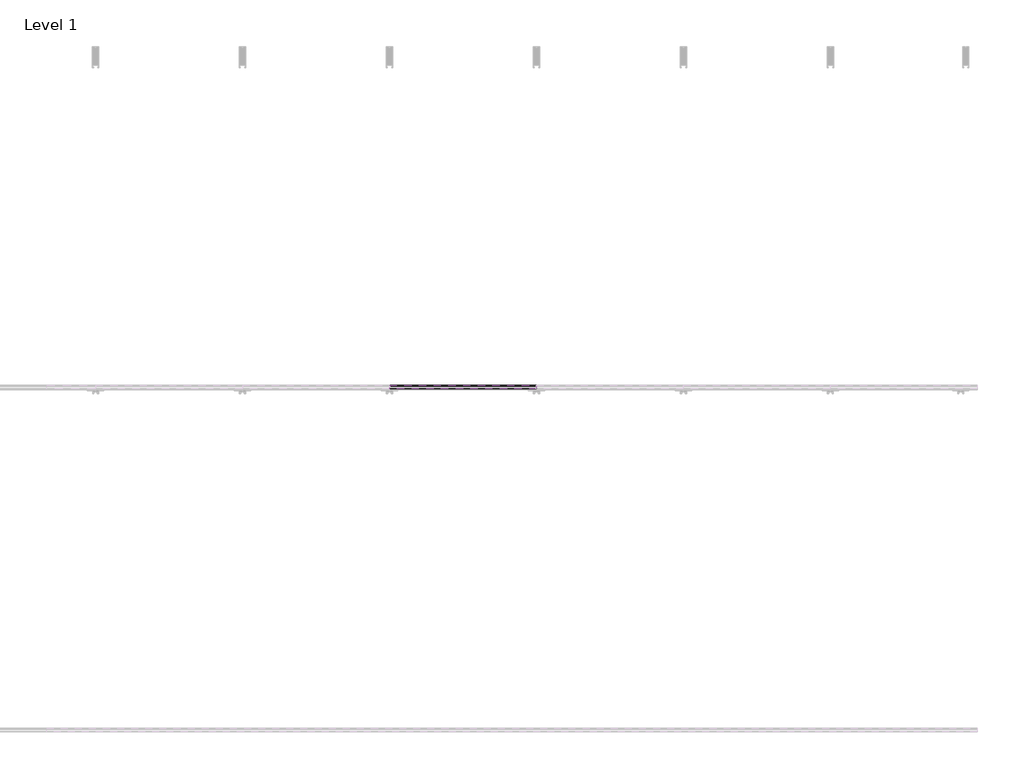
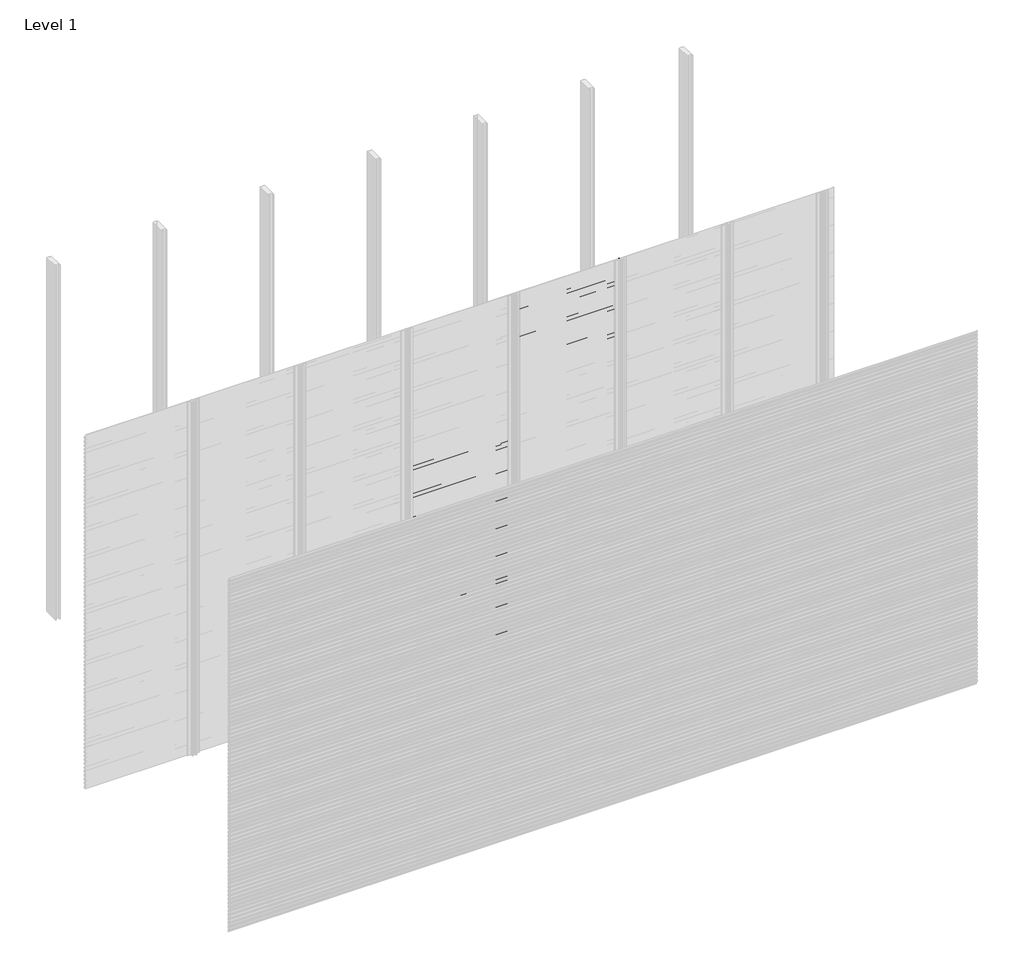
# One storey, part 9 of 96: 77 proxies.
"""IFC4 building model written with IfcOpenShell, lengths in millimetres."""

from ifc_helpers import new_model, si_unit, frame, origin, place, context, project, spatial, polyline, outline, extrude, element, save

model = new_model("IFC4")

# Units and contexts
model_context = context("Model", 3, world=origin())
ifc_project = project(units=[si_unit("LENGTHUNIT", "METRE", prefix="MILLI")], contexts=[model_context])

# Site, building, storey
site = spatial("IfcSite", under=ifc_project)
building = spatial("IfcBuilding", under=site)
storey = spatial("IfcBuildingStorey", under=building, Name="Level 1", Elevation=0.0)

# Proxies
placement = place(None, origin())
element("IfcBuildingElementProxy", 1, Name="Wall Sweeps", at=placement, inside=storey, context=model_context, shape_type="SweptSolid", body=[
    extrude(outline(polyline([(-53977.6, 1806.2655033), (-53977.6, 1791.9779188), (-53982.4114965, 1789.2), (-53982.4114965, 1790.4701706), (-53978.85, 1792.5264016), (-53978.85, 1805.5437382), (-53998.0, 1816.6000799), (-53998.0, 1831.5), (-53996.75, 1831.5), (-53996.75, 1817.3217609), (-53977.6, 1806.2655033)])), frame((2571.4285714, 0.0, 0.0), z_axis=(1.0, 0.0, 0.0), x_axis=(0.0, 1.0, 0.0)), (0.0, 0.0, 1.0), 857.1428571),
])
element("IfcBuildingElementProxy", 2, Name="Wall Sweeps", at=placement, inside=storey, context=model_context, shape_type="SweptSolid", body=[
    extrude(outline(polyline([(-53977.6, 1772.9655033), (-53977.6, 1758.6779188), (-53982.4114965, 1755.9), (-53982.4114965, 1757.1701706), (-53978.85, 1759.2264016), (-53978.85, 1772.2437382), (-53998.0, 1783.3000799), (-53998.0, 1798.2), (-53996.75, 1798.2), (-53996.75, 1784.0217609), (-53977.6, 1772.9655033)])), frame((2571.4285714, 0.0, 0.0), z_axis=(1.0, 0.0, 0.0), x_axis=(0.0, 1.0, 0.0)), (0.0, 0.0, 1.0), 857.1428571),
])
element("IfcBuildingElementProxy", 3, Name="Wall Sweeps", at=placement, inside=storey, context=model_context, shape_type="SweptSolid", body=[
    extrude(outline(polyline([(-53977.6, 1739.6655033), (-53977.6, 1725.3779188), (-53982.4114965, 1722.6), (-53982.4114965, 1723.8701706), (-53978.85, 1725.9264016), (-53978.85, 1738.9437382), (-53998.0, 1750.0000799), (-53998.0, 1764.9), (-53996.75, 1764.9), (-53996.75, 1750.7217609), (-53977.6, 1739.6655033)])), frame((2571.4285714, 0.0, 0.0), z_axis=(1.0, 0.0, 0.0), x_axis=(0.0, 1.0, 0.0)), (0.0, 0.0, 1.0), 857.1428571),
])
element("IfcBuildingElementProxy", 4, Name="Wall Sweeps", at=placement, inside=storey, context=model_context, shape_type="SweptSolid", body=[
    extrude(outline(polyline([(-53977.6, 1706.3655033), (-53977.6, 1692.0779188), (-53982.4114965, 1689.3), (-53982.4114965, 1690.5701706), (-53978.85, 1692.6264016), (-53978.85, 1705.6437382), (-53998.0, 1716.7000799), (-53998.0, 1731.6), (-53996.75, 1731.6), (-53996.75, 1717.4217609), (-53977.6, 1706.3655033)])), frame((2571.4285714, 0.0, 0.0), z_axis=(1.0, 0.0, 0.0), x_axis=(0.0, 1.0, 0.0)), (0.0, 0.0, 1.0), 857.1428571),
])
element("IfcBuildingElementProxy", 5, Name="Wall Sweeps", at=placement, inside=storey, context=model_context, shape_type="SweptSolid", body=[
    extrude(outline(polyline([(-53977.6, 1673.0655033), (-53977.6, 1658.7779188), (-53982.4114965, 1656.0), (-53982.4114965, 1657.2701706), (-53978.85, 1659.3264016), (-53978.85, 1672.3437382), (-53998.0, 1683.4000799), (-53998.0, 1698.3), (-53996.75, 1698.3), (-53996.75, 1684.1217609), (-53977.6, 1673.0655033)])), frame((2571.4285714, 0.0, 0.0), z_axis=(1.0, 0.0, 0.0), x_axis=(0.0, 1.0, 0.0)), (0.0, 0.0, 1.0), 857.1428571),
])
element("IfcBuildingElementProxy", 6, Name="Wall Sweeps", at=placement, inside=storey, context=model_context, shape_type="SweptSolid", body=[
    extrude(outline(polyline([(-53977.6, 1639.7655033), (-53977.6, 1625.4779188), (-53982.4114965, 1622.7), (-53982.4114965, 1623.9701706), (-53978.85, 1626.0264016), (-53978.85, 1639.0437382), (-53998.0, 1650.1000799), (-53998.0, 1665.0), (-53996.75, 1665.0), (-53996.75, 1650.8217609), (-53977.6, 1639.7655033)])), frame((2571.4285714, 0.0, 0.0), z_axis=(1.0, 0.0, 0.0), x_axis=(0.0, 1.0, 0.0)), (0.0, 0.0, 1.0), 857.1428571),
])
element("IfcBuildingElementProxy", 7, Name="Wall Sweeps", at=placement, inside=storey, context=model_context, shape_type="SweptSolid", body=[
    extrude(outline(polyline([(-53977.6, 1606.4655033), (-53977.6, 1592.1779188), (-53982.4114965, 1589.4), (-53982.4114965, 1590.6701706), (-53978.85, 1592.7264016), (-53978.85, 1605.7437382), (-53998.0, 1616.8000799), (-53998.0, 1631.7), (-53996.75, 1631.7), (-53996.75, 1617.5217609), (-53977.6, 1606.4655033)])), frame((2571.4285714, 0.0, 0.0), z_axis=(1.0, 0.0, 0.0), x_axis=(0.0, 1.0, 0.0)), (0.0, 0.0, 1.0), 857.1428571),
])
element("IfcBuildingElementProxy", 8, Name="Wall Sweeps", at=placement, inside=storey, context=model_context, shape_type="SweptSolid", body=[
    extrude(outline(polyline([(-53977.6, 1573.1655033), (-53977.6, 1558.8779188), (-53982.4114965, 1556.1), (-53982.4114965, 1557.3701706), (-53978.85, 1559.4264016), (-53978.85, 1572.4437382), (-53998.0, 1583.5000799), (-53998.0, 1598.4), (-53996.75, 1598.4), (-53996.75, 1584.2217609), (-53977.6, 1573.1655033)])), frame((2571.4285714, 0.0, 0.0), z_axis=(1.0, 0.0, 0.0), x_axis=(0.0, 1.0, 0.0)), (0.0, 0.0, 1.0), 857.1428571),
])
element("IfcBuildingElementProxy", 9, Name="Wall Sweeps", at=placement, inside=storey, context=model_context, shape_type="SweptSolid", body=[
    extrude(outline(polyline([(-53977.6, 1539.8655033), (-53977.6, 1525.5779188), (-53982.4114965, 1522.8), (-53982.4114965, 1524.0701706), (-53978.85, 1526.1264016), (-53978.85, 1539.1437382), (-53998.0, 1550.2000799), (-53998.0, 1565.1), (-53996.75, 1565.1), (-53996.75, 1550.9217609), (-53977.6, 1539.8655033)])), frame((2571.4285714, 0.0, 0.0), z_axis=(1.0, 0.0, 0.0), x_axis=(0.0, 1.0, 0.0)), (0.0, 0.0, 1.0), 857.1428571),
])
element("IfcBuildingElementProxy", 10, Name="Wall Sweeps", at=placement, inside=storey, context=model_context, shape_type="SweptSolid", body=[
    extrude(outline(polyline([(-53977.6, 1506.5655033), (-53977.6, 1492.2779188), (-53982.4114965, 1489.5), (-53982.4114965, 1490.7701706), (-53978.85, 1492.8264016), (-53978.85, 1505.8437382), (-53998.0, 1516.9000799), (-53998.0, 1531.8), (-53996.75, 1531.8), (-53996.75, 1517.6217609), (-53977.6, 1506.5655033)])), frame((2571.4285714, 0.0, 0.0), z_axis=(1.0, 0.0, 0.0), x_axis=(0.0, 1.0, 0.0)), (0.0, 0.0, 1.0), 857.1428571),
])
element("IfcBuildingElementProxy", 11, Name="Wall Sweeps", at=placement, inside=storey, context=model_context, shape_type="SweptSolid", body=[
    extrude(outline(polyline([(-53977.6, 1473.2655033), (-53977.6, 1458.9779188), (-53982.4114965, 1456.2), (-53982.4114965, 1457.4701706), (-53978.85, 1459.5264016), (-53978.85, 1472.5437382), (-53998.0, 1483.6000799), (-53998.0, 1498.5), (-53996.75, 1498.5), (-53996.75, 1484.3217609), (-53977.6, 1473.2655033)])), frame((2571.4285714, 0.0, 0.0), z_axis=(1.0, 0.0, 0.0), x_axis=(0.0, 1.0, 0.0)), (0.0, 0.0, 1.0), 857.1428571),
])
element("IfcBuildingElementProxy", 12, Name="Wall Sweeps", at=placement, inside=storey, context=model_context, shape_type="SweptSolid", body=[
    extrude(outline(polyline([(-53977.6, 1439.9655033), (-53977.6, 1425.6779188), (-53982.4114965, 1422.9), (-53982.4114965, 1424.1701706), (-53978.85, 1426.2264016), (-53978.85, 1439.2437382), (-53998.0, 1450.3000799), (-53998.0, 1465.2), (-53996.75, 1465.2), (-53996.75, 1451.0217609), (-53977.6, 1439.9655033)])), frame((2571.4285714, 0.0, 0.0), z_axis=(1.0, 0.0, 0.0), x_axis=(0.0, 1.0, 0.0)), (0.0, 0.0, 1.0), 857.1428571),
])
element("IfcBuildingElementProxy", 13, Name="Wall Sweeps", at=placement, inside=storey, context=model_context, shape_type="SweptSolid", body=[
    extrude(outline(polyline([(-53977.6, 1406.6655033), (-53977.6, 1392.3779188), (-53982.4114965, 1389.6), (-53982.4114965, 1390.8701706), (-53978.85, 1392.9264016), (-53978.85, 1405.9437382), (-53998.0, 1417.0000799), (-53998.0, 1431.9), (-53996.75, 1431.9), (-53996.75, 1417.7217609), (-53977.6, 1406.6655033)])), frame((2571.4285714, 0.0, 0.0), z_axis=(1.0, 0.0, 0.0), x_axis=(0.0, 1.0, 0.0)), (0.0, 0.0, 1.0), 857.1428571),
])
element("IfcBuildingElementProxy", 14, Name="Wall Sweeps", at=placement, inside=storey, context=model_context, shape_type="SweptSolid", body=[
    extrude(outline(polyline([(-53977.6, 1373.3655033), (-53977.6, 1359.0779188), (-53982.4114965, 1356.3), (-53982.4114965, 1357.5701706), (-53978.85, 1359.6264016), (-53978.85, 1372.6437382), (-53998.0, 1383.7000799), (-53998.0, 1398.6), (-53996.75, 1398.6), (-53996.75, 1384.4217609), (-53977.6, 1373.3655033)])), frame((2571.4285714, 0.0, 0.0), z_axis=(1.0, 0.0, 0.0), x_axis=(0.0, 1.0, 0.0)), (0.0, 0.0, 1.0), 857.1428571),
])
element("IfcBuildingElementProxy", 15, Name="Wall Sweeps", at=placement, inside=storey, context=model_context, shape_type="SweptSolid", body=[
    extrude(outline(polyline([(-53977.6, 1340.0655033), (-53977.6, 1325.7779188), (-53982.4114965, 1323.0), (-53982.4114965, 1324.2701706), (-53978.85, 1326.3264016), (-53978.85, 1339.3437382), (-53998.0, 1350.4000799), (-53998.0, 1365.3), (-53996.75, 1365.3), (-53996.75, 1351.1217609), (-53977.6, 1340.0655033)])), frame((2571.4285714, 0.0, 0.0), z_axis=(1.0, 0.0, 0.0), x_axis=(0.0, 1.0, 0.0)), (0.0, 0.0, 1.0), 857.1428571),
])
element("IfcBuildingElementProxy", 16, Name="Wall Sweeps", at=placement, inside=storey, context=model_context, shape_type="SweptSolid", body=[
    extrude(outline(polyline([(-53977.6, 1306.7655033), (-53977.6, 1292.4779188), (-53982.4114965, 1289.7), (-53982.4114965, 1290.9701706), (-53978.85, 1293.0264016), (-53978.85, 1306.0437382), (-53998.0, 1317.1000799), (-53998.0, 1332.0), (-53996.75, 1332.0), (-53996.75, 1317.8217609), (-53977.6, 1306.7655033)])), frame((2571.4285714, 0.0, 0.0), z_axis=(1.0, 0.0, 0.0), x_axis=(0.0, 1.0, 0.0)), (0.0, 0.0, 1.0), 857.1428571),
])
element("IfcBuildingElementProxy", 17, Name="Wall Sweeps", at=placement, inside=storey, context=model_context, shape_type="SweptSolid", body=[
    extrude(outline(polyline([(-53977.6, 1273.4655033), (-53977.6, 1259.1779188), (-53982.4114965, 1256.4), (-53982.4114965, 1257.6701706), (-53978.85, 1259.7264016), (-53978.85, 1272.7437382), (-53998.0, 1283.8000799), (-53998.0, 1298.7), (-53996.75, 1298.7), (-53996.75, 1284.5217609), (-53977.6, 1273.4655033)])), frame((2571.4285714, 0.0, 0.0), z_axis=(1.0, 0.0, 0.0), x_axis=(0.0, 1.0, 0.0)), (0.0, 0.0, 1.0), 857.1428571),
])
element("IfcBuildingElementProxy", 18, Name="Wall Sweeps", at=placement, inside=storey, context=model_context, shape_type="SweptSolid", body=[
    extrude(outline(polyline([(-53977.6, 1240.1655033), (-53977.6, 1225.8779188), (-53982.4114965, 1223.1), (-53982.4114965, 1224.3701706), (-53978.85, 1226.4264016), (-53978.85, 1239.4437382), (-53998.0, 1250.5000799), (-53998.0, 1265.4), (-53996.75, 1265.4), (-53996.75, 1251.2217609), (-53977.6, 1240.1655033)])), frame((2571.4285714, 0.0, 0.0), z_axis=(1.0, 0.0, 0.0), x_axis=(0.0, 1.0, 0.0)), (0.0, 0.0, 1.0), 857.1428571),
])
element("IfcBuildingElementProxy", 19, Name="Wall Sweeps", at=placement, inside=storey, context=model_context, shape_type="SweptSolid", body=[
    extrude(outline(polyline([(-53977.6, 1206.8655033), (-53977.6, 1192.5779188), (-53982.4114965, 1189.8), (-53982.4114965, 1191.0701706), (-53978.85, 1193.1264016), (-53978.85, 1206.1437382), (-53998.0, 1217.2000799), (-53998.0, 1232.1), (-53996.75, 1232.1), (-53996.75, 1217.9217609), (-53977.6, 1206.8655033)])), frame((2571.4285714, 0.0, 0.0), z_axis=(1.0, 0.0, 0.0), x_axis=(0.0, 1.0, 0.0)), (0.0, 0.0, 1.0), 857.1428571),
])
element("IfcBuildingElementProxy", 20, Name="Wall Sweeps", at=placement, inside=storey, context=model_context, shape_type="SweptSolid", body=[
    extrude(outline(polyline([(-53977.6, 1173.5655033), (-53977.6, 1159.2779188), (-53982.4114965, 1156.5), (-53982.4114965, 1157.7701706), (-53978.85, 1159.8264016), (-53978.85, 1172.8437382), (-53998.0, 1183.9000799), (-53998.0, 1198.8), (-53996.75, 1198.8), (-53996.75, 1184.6217609), (-53977.6, 1173.5655033)])), frame((2571.4285714, 0.0, 0.0), z_axis=(1.0, 0.0, 0.0), x_axis=(0.0, 1.0, 0.0)), (0.0, 0.0, 1.0), 857.1428571),
])
element("IfcBuildingElementProxy", 21, Name="Wall Sweeps", at=placement, inside=storey, context=model_context, shape_type="SweptSolid", body=[
    extrude(outline(polyline([(-53977.6, 1140.2655033), (-53977.6, 1125.9779188), (-53982.4114965, 1123.2), (-53982.4114965, 1124.4701706), (-53978.85, 1126.5264016), (-53978.85, 1139.5437382), (-53998.0, 1150.6000799), (-53998.0, 1165.5), (-53996.75, 1165.5), (-53996.75, 1151.3217609), (-53977.6, 1140.2655033)])), frame((2571.4285714, 0.0, 0.0), z_axis=(1.0, 0.0, 0.0), x_axis=(0.0, 1.0, 0.0)), (0.0, 0.0, 1.0), 857.1428571),
])
element("IfcBuildingElementProxy", 22, Name="Wall Sweeps", at=placement, inside=storey, context=model_context, shape_type="SweptSolid", body=[
    extrude(outline(polyline([(-53977.6, 1106.9655033), (-53977.6, 1092.6779188), (-53982.4114965, 1089.9), (-53982.4114965, 1091.1701706), (-53978.85, 1093.2264016), (-53978.85, 1106.2437382), (-53998.0, 1117.3000799), (-53998.0, 1132.2), (-53996.75, 1132.2), (-53996.75, 1118.0217609), (-53977.6, 1106.9655033)])), frame((2571.4285714, 0.0, 0.0), z_axis=(1.0, 0.0, 0.0), x_axis=(0.0, 1.0, 0.0)), (0.0, 0.0, 1.0), 857.1428571),
])
element("IfcBuildingElementProxy", 23, Name="Wall Sweeps", at=placement, inside=storey, context=model_context, shape_type="SweptSolid", body=[
    extrude(outline(polyline([(-53977.6, 1073.6655033), (-53977.6, 1059.3779188), (-53982.4114965, 1056.6), (-53982.4114965, 1057.8701706), (-53978.85, 1059.9264016), (-53978.85, 1072.9437382), (-53998.0, 1084.0000799), (-53998.0, 1098.9), (-53996.75, 1098.9), (-53996.75, 1084.7217609), (-53977.6, 1073.6655033)])), frame((2571.4285714, 0.0, 0.0), z_axis=(1.0, 0.0, 0.0), x_axis=(0.0, 1.0, 0.0)), (0.0, 0.0, 1.0), 857.1428571),
])
element("IfcBuildingElementProxy", 24, Name="Wall Sweeps", at=placement, inside=storey, context=model_context, shape_type="SweptSolid", body=[
    extrude(outline(polyline([(-53977.6, 1040.3655033), (-53977.6, 1026.0779188), (-53982.4114965, 1023.3), (-53982.4114965, 1024.5701706), (-53978.85, 1026.6264016), (-53978.85, 1039.6437382), (-53998.0, 1050.7000799), (-53998.0, 1065.6), (-53996.75, 1065.6), (-53996.75, 1051.4217609), (-53977.6, 1040.3655033)])), frame((2571.4285714, 0.0, 0.0), z_axis=(1.0, 0.0, 0.0), x_axis=(0.0, 1.0, 0.0)), (0.0, 0.0, 1.0), 857.1428571),
])
element("IfcBuildingElementProxy", 25, Name="Wall Sweeps", at=placement, inside=storey, context=model_context, shape_type="SweptSolid", body=[
    extrude(outline(polyline([(-53977.6, 1007.0655033), (-53977.6, 992.7779188), (-53982.4114965, 990.0), (-53982.4114965, 991.2701706), (-53978.85, 993.3264016), (-53978.85, 1006.3437382), (-53998.0, 1017.4000799), (-53998.0, 1032.3), (-53996.75, 1032.3), (-53996.75, 1018.1217609), (-53977.6, 1007.0655033)])), frame((2571.4285714, 0.0, 0.0), z_axis=(1.0, 0.0, 0.0), x_axis=(0.0, 1.0, 0.0)), (0.0, 0.0, 1.0), 857.1428571),
])
element("IfcBuildingElementProxy", 26, Name="Wall Sweeps", at=placement, inside=storey, context=model_context, shape_type="SweptSolid", body=[
    extrude(outline(polyline([(-53977.6, 973.7655033), (-53977.6, 959.4779188), (-53982.4114965, 956.7), (-53982.4114965, 957.9701706), (-53978.85, 960.0264016), (-53978.85, 973.0437382), (-53998.0, 984.1000799), (-53998.0, 999.0), (-53996.75, 999.0), (-53996.75, 984.8217609), (-53977.6, 973.7655033)])), frame((2571.4285714, 0.0, 0.0), z_axis=(1.0, 0.0, 0.0), x_axis=(0.0, 1.0, 0.0)), (0.0, 0.0, 1.0), 857.1428571),
])
element("IfcBuildingElementProxy", 27, Name="Wall Sweeps", at=placement, inside=storey, context=model_context, shape_type="SweptSolid", body=[
    extrude(outline(polyline([(-53977.6, 940.4655033), (-53977.6, 926.1779188), (-53982.4114965, 923.4), (-53982.4114965, 924.6701706), (-53978.85, 926.7264016), (-53978.85, 939.7437382), (-53998.0, 950.8000799), (-53998.0, 965.7), (-53996.75, 965.7), (-53996.75, 951.5217609), (-53977.6, 940.4655033)])), frame((2571.4285714, 0.0, 0.0), z_axis=(1.0, 0.0, 0.0), x_axis=(0.0, 1.0, 0.0)), (0.0, 0.0, 1.0), 857.1428571),
])
element("IfcBuildingElementProxy", 28, Name="Wall Sweeps", at=placement, inside=storey, context=model_context, shape_type="SweptSolid", body=[
    extrude(outline(polyline([(-53977.6, 907.1655033), (-53977.6, 892.8779188), (-53982.4114965, 890.1), (-53982.4114965, 891.3701706), (-53978.85, 893.4264016), (-53978.85, 906.4437382), (-53998.0, 917.5000799), (-53998.0, 932.4), (-53996.75, 932.4), (-53996.75, 918.2217609), (-53977.6, 907.1655033)])), frame((2571.4285714, 0.0, 0.0), z_axis=(1.0, 0.0, 0.0), x_axis=(0.0, 1.0, 0.0)), (0.0, 0.0, 1.0), 857.1428571),
])
element("IfcBuildingElementProxy", 29, Name="Wall Sweeps", at=placement, inside=storey, context=model_context, shape_type="SweptSolid", body=[
    extrude(outline(polyline([(-53977.6, 873.8655033), (-53977.6, 859.5779188), (-53982.4114965, 856.8), (-53982.4114965, 858.0701706), (-53978.85, 860.1264016), (-53978.85, 873.1437382), (-53998.0, 884.2000799), (-53998.0, 899.1), (-53996.75, 899.1), (-53996.75, 884.9217609), (-53977.6, 873.8655033)])), frame((2571.4285714, 0.0, 0.0), z_axis=(1.0, 0.0, 0.0), x_axis=(0.0, 1.0, 0.0)), (0.0, 0.0, 1.0), 857.1428571),
])
element("IfcBuildingElementProxy", 30, Name="Wall Sweeps", at=placement, inside=storey, context=model_context, shape_type="SweptSolid", body=[
    extrude(outline(polyline([(-53977.6, 840.5655033), (-53977.6, 826.2779188), (-53982.4114965, 823.5), (-53982.4114965, 824.7701706), (-53978.85, 826.8264016), (-53978.85, 839.8437382), (-53998.0, 850.9000799), (-53998.0, 865.8), (-53996.75, 865.8), (-53996.75, 851.6217609), (-53977.6, 840.5655033)])), frame((2571.4285714, 0.0, 0.0), z_axis=(1.0, 0.0, 0.0), x_axis=(0.0, 1.0, 0.0)), (0.0, 0.0, 1.0), 857.1428571),
])
element("IfcBuildingElementProxy", 31, Name="Wall Sweeps", at=placement, inside=storey, context=model_context, shape_type="SweptSolid", body=[
    extrude(outline(polyline([(-53977.6, 807.2655033), (-53977.6, 792.9779188), (-53982.4114965, 790.2), (-53982.4114965, 791.4701706), (-53978.85, 793.5264016), (-53978.85, 806.5437382), (-53998.0, 817.6000799), (-53998.0, 832.5), (-53996.75, 832.5), (-53996.75, 818.3217609), (-53977.6, 807.2655033)])), frame((2571.4285714, 0.0, 0.0), z_axis=(1.0, 0.0, 0.0), x_axis=(0.0, 1.0, 0.0)), (0.0, 0.0, 1.0), 857.1428571),
])
element("IfcBuildingElementProxy", 32, Name="Wall Sweeps", at=placement, inside=storey, context=model_context, shape_type="SweptSolid", body=[
    extrude(outline(polyline([(-53977.6, 773.9655033), (-53977.6, 759.6779188), (-53982.4114965, 756.9), (-53982.4114965, 758.1701706), (-53978.85, 760.2264016), (-53978.85, 773.2437382), (-53998.0, 784.3000799), (-53998.0, 799.2), (-53996.75, 799.2), (-53996.75, 785.0217609), (-53977.6, 773.9655033)])), frame((2571.4285714, 0.0, 0.0), z_axis=(1.0, 0.0, 0.0), x_axis=(0.0, 1.0, 0.0)), (0.0, 0.0, 1.0), 857.1428571),
])
element("IfcBuildingElementProxy", 33, Name="Wall Sweeps", at=placement, inside=storey, context=model_context, shape_type="SweptSolid", body=[
    extrude(outline(polyline([(-53977.6, 740.6655033), (-53977.6, 726.3779188), (-53982.4114965, 723.6), (-53982.4114965, 724.8701706), (-53978.85, 726.9264016), (-53978.85, 739.9437382), (-53998.0, 751.0000799), (-53998.0, 765.9), (-53996.75, 765.9), (-53996.75, 751.7217609), (-53977.6, 740.6655033)])), frame((2571.4285714, 0.0, 0.0), z_axis=(1.0, 0.0, 0.0), x_axis=(0.0, 1.0, 0.0)), (0.0, 0.0, 1.0), 857.1428571),
])
element("IfcBuildingElementProxy", 34, Name="Wall Sweeps", at=placement, inside=storey, context=model_context, shape_type="SweptSolid", body=[
    extrude(outline(polyline([(-53977.6, 707.3655033), (-53977.6, 693.0779188), (-53982.4114965, 690.3), (-53982.4114965, 691.5701706), (-53978.85, 693.6264016), (-53978.85, 706.6437382), (-53998.0, 717.7000799), (-53998.0, 732.6), (-53996.75, 732.6), (-53996.75, 718.4217609), (-53977.6, 707.3655033)])), frame((2571.4285714, 0.0, 0.0), z_axis=(1.0, 0.0, 0.0), x_axis=(0.0, 1.0, 0.0)), (0.0, 0.0, 1.0), 857.1428571),
])
element("IfcBuildingElementProxy", 35, Name="Wall Sweeps", at=placement, inside=storey, context=model_context, shape_type="SweptSolid", body=[
    extrude(outline(polyline([(-53977.6, 674.0655033), (-53977.6, 659.7779188), (-53982.4114965, 657.0), (-53982.4114965, 658.2701706), (-53978.85, 660.3264016), (-53978.85, 673.3437382), (-53998.0, 684.4000799), (-53998.0, 699.3), (-53996.75, 699.3), (-53996.75, 685.1217609), (-53977.6, 674.0655033)])), frame((2571.4285714, 0.0, 0.0), z_axis=(1.0, 0.0, 0.0), x_axis=(0.0, 1.0, 0.0)), (0.0, 0.0, 1.0), 857.1428571),
])
element("IfcBuildingElementProxy", 36, Name="Wall Sweeps", at=placement, inside=storey, context=model_context, shape_type="SweptSolid", body=[
    extrude(outline(polyline([(-53977.6, 640.7655033), (-53977.6, 626.4779188), (-53982.4114965, 623.7), (-53982.4114965, 624.9701706), (-53978.85, 627.0264016), (-53978.85, 640.0437382), (-53998.0, 651.1000799), (-53998.0, 666.0), (-53996.75, 666.0), (-53996.75, 651.8217609), (-53977.6, 640.7655033)])), frame((2571.4285714, 0.0, 0.0), z_axis=(1.0, 0.0, 0.0), x_axis=(0.0, 1.0, 0.0)), (0.0, 0.0, 1.0), 857.1428571),
])
element("IfcBuildingElementProxy", 37, Name="Wall Sweeps", at=placement, inside=storey, context=model_context, shape_type="SweptSolid", body=[
    extrude(outline(polyline([(-53977.6, 607.4655033), (-53977.6, 593.1779188), (-53982.4114965, 590.4), (-53982.4114965, 591.6701706), (-53978.85, 593.7264016), (-53978.85, 606.7437382), (-53998.0, 617.8000799), (-53998.0, 632.7), (-53996.75, 632.7), (-53996.75, 618.5217609), (-53977.6, 607.4655033)])), frame((2571.4285714, 0.0, 0.0), z_axis=(1.0, 0.0, 0.0), x_axis=(0.0, 1.0, 0.0)), (0.0, 0.0, 1.0), 857.1428571),
])
element("IfcBuildingElementProxy", 38, Name="Wall Sweeps", at=placement, inside=storey, context=model_context, shape_type="SweptSolid", body=[
    extrude(outline(polyline([(-53977.6, 574.1655033), (-53977.6, 559.8779188), (-53982.4114965, 557.1), (-53982.4114965, 558.3701706), (-53978.85, 560.4264016), (-53978.85, 573.4437382), (-53998.0, 584.5000799), (-53998.0, 599.4), (-53996.75, 599.4), (-53996.75, 585.2217609), (-53977.6, 574.1655033)])), frame((2571.4285714, 0.0, 0.0), z_axis=(1.0, 0.0, 0.0), x_axis=(0.0, 1.0, 0.0)), (0.0, 0.0, 1.0), 857.1428571),
])
element("IfcBuildingElementProxy", 39, Name="Wall Sweeps", at=placement, inside=storey, context=model_context, shape_type="SweptSolid", body=[
    extrude(outline(polyline([(-53977.6, 540.8655033), (-53977.6, 526.5779188), (-53982.4114965, 523.8), (-53982.4114965, 525.0701706), (-53978.85, 527.1264016), (-53978.85, 540.1437382), (-53998.0, 551.2000799), (-53998.0, 566.1), (-53996.75, 566.1), (-53996.75, 551.9217609), (-53977.6, 540.8655033)])), frame((2571.4285714, 0.0, 0.0), z_axis=(1.0, 0.0, 0.0), x_axis=(0.0, 1.0, 0.0)), (0.0, 0.0, 1.0), 857.1428571),
])
element("IfcBuildingElementProxy", 40, Name="Wall Sweeps", at=placement, inside=storey, context=model_context, shape_type="SweptSolid", body=[
    extrude(outline(polyline([(-53977.6, 507.5655033), (-53977.6, 493.2779188), (-53982.4114965, 490.5), (-53982.4114965, 491.7701706), (-53978.85, 493.8264016), (-53978.85, 506.8437382), (-53998.0, 517.9000799), (-53998.0, 532.8), (-53996.75, 532.8), (-53996.75, 518.6217609), (-53977.6, 507.5655033)])), frame((2571.4285714, 0.0, 0.0), z_axis=(1.0, 0.0, 0.0), x_axis=(0.0, 1.0, 0.0)), (0.0, 0.0, 1.0), 857.1428571),
])
element("IfcBuildingElementProxy", 41, Name="Wall Sweeps", at=placement, inside=storey, context=model_context, shape_type="SweptSolid", body=[
    extrude(outline(polyline([(-53977.6, 474.2655033), (-53977.6, 459.9779188), (-53982.4114965, 457.2), (-53982.4114965, 458.4701706), (-53978.85, 460.5264016), (-53978.85, 473.5437382), (-53998.0, 484.6000799), (-53998.0, 499.5), (-53996.75, 499.5), (-53996.75, 485.3217609), (-53977.6, 474.2655033)])), frame((2571.4285714, 0.0, 0.0), z_axis=(1.0, 0.0, 0.0), x_axis=(0.0, 1.0, 0.0)), (0.0, 0.0, 1.0), 857.1428571),
])
element("IfcBuildingElementProxy", 42, Name="Wall Sweeps", at=placement, inside=storey, context=model_context, shape_type="SweptSolid", body=[
    extrude(outline(polyline([(-53977.6, 440.9655033), (-53977.6, 426.6779188), (-53982.4114965, 423.9), (-53982.4114965, 425.1701706), (-53978.85, 427.2264016), (-53978.85, 440.2437382), (-53998.0, 451.3000799), (-53998.0, 466.2), (-53996.75, 466.2), (-53996.75, 452.0217609), (-53977.6, 440.9655033)])), frame((2571.4285714, 0.0, 0.0), z_axis=(1.0, 0.0, 0.0), x_axis=(0.0, 1.0, 0.0)), (0.0, 0.0, 1.0), 857.1428571),
])
element("IfcBuildingElementProxy", 43, Name="Wall Sweeps", at=placement, inside=storey, context=model_context, shape_type="SweptSolid", body=[
    extrude(outline(polyline([(-53977.6, 407.6655033), (-53977.6, 393.3779188), (-53982.4114965, 390.6), (-53982.4114965, 391.8701706), (-53978.85, 393.9264016), (-53978.85, 406.9437382), (-53998.0, 418.0000799), (-53998.0, 432.9), (-53996.75, 432.9), (-53996.75, 418.7217609), (-53977.6, 407.6655033)])), frame((2571.4285714, 0.0, 0.0), z_axis=(1.0, 0.0, 0.0), x_axis=(0.0, 1.0, 0.0)), (0.0, 0.0, 1.0), 857.1428571),
])
element("IfcBuildingElementProxy", 44, Name="Wall Sweeps", at=placement, inside=storey, context=model_context, shape_type="SweptSolid", body=[
    extrude(outline(polyline([(-53977.6, 374.3655033), (-53977.6, 360.0779188), (-53982.4114965, 357.3), (-53982.4114965, 358.5701706), (-53978.85, 360.6264016), (-53978.85, 373.6437382), (-53998.0, 384.7000799), (-53998.0, 399.6), (-53996.75, 399.6), (-53996.75, 385.4217609), (-53977.6, 374.3655033)])), frame((2571.4285714, 0.0, 0.0), z_axis=(1.0, 0.0, 0.0), x_axis=(0.0, 1.0, 0.0)), (0.0, 0.0, 1.0), 857.1428571),
])
element("IfcBuildingElementProxy", 45, Name="Wall Sweeps", at=placement, inside=storey, context=model_context, shape_type="SweptSolid", body=[
    extrude(outline(polyline([(-53977.6, 341.0655033), (-53977.6, 326.7779188), (-53982.4114965, 324.0), (-53982.4114965, 325.2701706), (-53978.85, 327.3264016), (-53978.85, 340.3437382), (-53998.0, 351.4000799), (-53998.0, 366.3), (-53996.75, 366.3), (-53996.75, 352.1217609), (-53977.6, 341.0655033)])), frame((2571.4285714, 0.0, 0.0), z_axis=(1.0, 0.0, 0.0), x_axis=(0.0, 1.0, 0.0)), (0.0, 0.0, 1.0), 857.1428571),
])
element("IfcBuildingElementProxy", 46, Name="Wall Sweeps", at=placement, inside=storey, context=model_context, shape_type="SweptSolid", body=[
    extrude(outline(polyline([(-53977.6, 307.7655033), (-53977.6, 293.4779188), (-53982.4114965, 290.7), (-53982.4114965, 291.9701706), (-53978.85, 294.0264016), (-53978.85, 307.0437382), (-53998.0, 318.1000799), (-53998.0, 333.0), (-53996.75, 333.0), (-53996.75, 318.8217609), (-53977.6, 307.7655033)])), frame((2571.4285714, 0.0, 0.0), z_axis=(1.0, 0.0, 0.0), x_axis=(0.0, 1.0, 0.0)), (0.0, 0.0, 1.0), 857.1428571),
])
element("IfcBuildingElementProxy", 47, Name="Wall Sweeps", at=placement, inside=storey, context=model_context, shape_type="SweptSolid", body=[
    extrude(outline(polyline([(-53977.6, 274.4655033), (-53977.6, 260.1779188), (-53982.4114965, 257.4), (-53982.4114965, 258.6701706), (-53978.85, 260.7264016), (-53978.85, 273.7437382), (-53998.0, 284.8000799), (-53998.0, 299.7), (-53996.75, 299.7), (-53996.75, 285.5217609), (-53977.6, 274.4655033)])), frame((2571.4285714, 0.0, 0.0), z_axis=(1.0, 0.0, 0.0), x_axis=(0.0, 1.0, 0.0)), (0.0, 0.0, 1.0), 857.1428571),
])
element("IfcBuildingElementProxy", 48, Name="Wall Sweeps", at=placement, inside=storey, context=model_context, shape_type="SweptSolid", body=[
    extrude(outline(polyline([(-53977.6, 241.1655033), (-53977.6, 226.8779188), (-53982.4114965, 224.1), (-53982.4114965, 225.3701706), (-53978.85, 227.4264016), (-53978.85, 240.4437382), (-53998.0, 251.5000799), (-53998.0, 266.4), (-53996.75, 266.4), (-53996.75, 252.2217609), (-53977.6, 241.1655033)])), frame((2571.4285714, 0.0, 0.0), z_axis=(1.0, 0.0, 0.0), x_axis=(0.0, 1.0, 0.0)), (0.0, 0.0, 1.0), 857.1428571),
])
element("IfcBuildingElementProxy", 49, Name="Wall Sweeps", at=placement, inside=storey, context=model_context, shape_type="SweptSolid", body=[
    extrude(outline(polyline([(-53977.6, 207.8655033), (-53977.6, 193.5779188), (-53982.4114965, 190.8), (-53982.4114965, 192.0701706), (-53978.85, 194.1264016), (-53978.85, 207.1437382), (-53998.0, 218.2000799), (-53998.0, 233.1), (-53996.75, 233.1), (-53996.75, 218.9217609), (-53977.6, 207.8655033)])), frame((2571.4285714, 0.0, 0.0), z_axis=(1.0, 0.0, 0.0), x_axis=(0.0, 1.0, 0.0)), (0.0, 0.0, 1.0), 857.1428571),
])
element("IfcBuildingElementProxy", 50, Name="Wall Sweeps", at=placement, inside=storey, context=model_context, shape_type="SweptSolid", body=[
    extrude(outline(polyline([(-53977.6, 174.5655033), (-53977.6, 160.2779188), (-53982.4114965, 157.5), (-53982.4114965, 158.7701706), (-53978.85, 160.8264016), (-53978.85, 173.8437382), (-53998.0, 184.9000799), (-53998.0, 199.8), (-53996.75, 199.8), (-53996.75, 185.6217609), (-53977.6, 174.5655033)])), frame((2571.4285714, 0.0, 0.0), z_axis=(1.0, 0.0, 0.0), x_axis=(0.0, 1.0, 0.0)), (0.0, 0.0, 1.0), 857.1428571),
])
element("IfcBuildingElementProxy", 51, Name="Wall Sweeps", at=placement, inside=storey, context=model_context, shape_type="SweptSolid", body=[
    extrude(outline(polyline([(-53977.6, 141.2655033), (-53977.6, 126.9779188), (-53982.4114965, 124.2), (-53982.4114965, 125.4701706), (-53978.85, 127.5264016), (-53978.85, 140.5437382), (-53998.0, 151.6000799), (-53998.0, 166.5), (-53996.75, 166.5), (-53996.75, 152.3217609), (-53977.6, 141.2655033)])), frame((2571.4285714, 0.0, 0.0), z_axis=(1.0, 0.0, 0.0), x_axis=(0.0, 1.0, 0.0)), (0.0, 0.0, 1.0), 857.1428571),
])
element("IfcBuildingElementProxy", 52, Name="Wall Sweeps", at=placement, inside=storey, context=model_context, shape_type="SweptSolid", body=[
    extrude(outline(polyline([(-53977.6, 107.9655033), (-53977.6, 93.6779188), (-53982.4114965, 90.9), (-53982.4114965, 92.1701706), (-53978.85, 94.2264016), (-53978.85, 107.2437382), (-53998.0, 118.3000799), (-53998.0, 133.2), (-53996.75, 133.2), (-53996.75, 119.0217609), (-53977.6, 107.9655033)])), frame((2571.4285714, 0.0, 0.0), z_axis=(1.0, 0.0, 0.0), x_axis=(0.0, 1.0, 0.0)), (0.0, 0.0, 1.0), 857.1428571),
])
element("IfcBuildingElementProxy", 53, Name="Wall Sweeps", at=placement, inside=storey, context=model_context, shape_type="SweptSolid", body=[
    extrude(outline(polyline([(-53977.6, 74.6655033), (-53977.6, 60.3779188), (-53982.4114965, 57.6), (-53982.4114965, 58.8701706), (-53978.85, 60.9264016), (-53978.85, 73.9437382), (-53998.0, 85.0000799), (-53998.0, 99.9), (-53996.75, 99.9), (-53996.75, 85.7217609), (-53977.6, 74.6655033)])), frame((2571.4285714, 0.0, 0.0), z_axis=(1.0, 0.0, 0.0), x_axis=(0.0, 1.0, 0.0)), (0.0, 0.0, 1.0), 857.1428571),
])
element("IfcBuildingElementProxy", 54, Name="Wall Sweeps", at=placement, inside=storey, context=model_context, shape_type="SweptSolid", body=[
    extrude(outline(polyline([(-53977.6, 41.3655033), (-53977.6, 27.0779188), (-53982.4114965, 24.3), (-53982.4114965, 25.5701706), (-53978.85, 27.6264016), (-53978.85, 40.6437382), (-53998.0, 51.7000799), (-53998.0, 66.6), (-53996.75, 66.6), (-53996.75, 52.4217609), (-53977.6, 41.3655033)])), frame((2571.4285714, 0.0, 0.0), z_axis=(1.0, 0.0, 0.0), x_axis=(0.0, 1.0, 0.0)), (0.0, 0.0, 1.0), 857.1428571),
])
element("IfcBuildingElementProxy", 55, Name="Wall Sweeps", at=placement, inside=storey, context=model_context, shape_type="SweptSolid", body=[
    extrude(outline(polyline([(-53977.6, 8.0655033), (-53977.6, -6.2220812), (-53982.4114965, -9.0), (-53982.4114965, -7.7298294), (-53978.85, -5.6735984), (-53978.85, 7.3437382), (-53998.0, 18.4000799), (-53998.0, 33.3), (-53996.75, 33.3), (-53996.75, 19.1217609), (-53977.6, 8.0655033)])), frame((2571.4285714, 0.0, 0.0), z_axis=(1.0, 0.0, 0.0), x_axis=(0.0, 1.0, 0.0)), (0.0, 0.0, 1.0), 857.1428571),
])
element("IfcBuildingElementProxy", 56, Name="Wall Sweeps", at=placement, inside=storey, context=model_context, shape_type="SweptSolid", body=[
    extrude(outline(polyline([(-53977.6, 2971.7655033), (-53977.6, 2957.4779188), (-53982.4114965, 2954.7), (-53982.4114965, 2955.9701706), (-53978.85, 2958.0264016), (-53978.85, 2971.0437382), (-53998.0, 2982.1000799), (-53998.0, 2997.0), (-53996.75, 2997.0), (-53996.75, 2982.8217609), (-53977.6, 2971.7655033)])), frame((3428.5714286, 0.0, 0.0), z_axis=(1.0, 0.0, 0.0), x_axis=(0.0, 1.0, 0.0)), (0.0, 0.0, 1.0), 857.1428571),
])
element("IfcBuildingElementProxy", 57, Name="Wall Sweeps", at=placement, inside=storey, context=model_context, shape_type="SweptSolid", body=[
    extrude(outline(polyline([(-53977.6, 2938.4655033), (-53977.6, 2924.1779188), (-53982.4114965, 2921.4), (-53982.4114965, 2922.6701706), (-53978.85, 2924.7264016), (-53978.85, 2937.7437382), (-53998.0, 2948.8000799), (-53998.0, 2963.7), (-53996.75, 2963.7), (-53996.75, 2949.5217609), (-53977.6, 2938.4655033)])), frame((3428.5714286, 0.0, 0.0), z_axis=(1.0, 0.0, 0.0), x_axis=(0.0, 1.0, 0.0)), (0.0, 0.0, 1.0), 857.1428571),
])
element("IfcBuildingElementProxy", 58, Name="Wall Sweeps", at=placement, inside=storey, context=model_context, shape_type="SweptSolid", body=[
    extrude(outline(polyline([(-53977.6, 2905.1655033), (-53977.6, 2890.8779188), (-53982.4114965, 2888.1), (-53982.4114965, 2889.3701706), (-53978.85, 2891.4264016), (-53978.85, 2904.4437382), (-53998.0, 2915.5000799), (-53998.0, 2930.4), (-53996.75, 2930.4), (-53996.75, 2916.2217609), (-53977.6, 2905.1655033)])), frame((3428.5714286, 0.0, 0.0), z_axis=(1.0, 0.0, 0.0), x_axis=(0.0, 1.0, 0.0)), (0.0, 0.0, 1.0), 857.1428571),
])
element("IfcBuildingElementProxy", 59, Name="Wall Sweeps", at=placement, inside=storey, context=model_context, shape_type="SweptSolid", body=[
    extrude(outline(polyline([(-53977.6, 2871.8655033), (-53977.6, 2857.5779188), (-53982.4114965, 2854.8), (-53982.4114965, 2856.0701706), (-53978.85, 2858.1264016), (-53978.85, 2871.1437382), (-53998.0, 2882.2000799), (-53998.0, 2897.1), (-53996.75, 2897.1), (-53996.75, 2882.9217609), (-53977.6, 2871.8655033)])), frame((3428.5714286, 0.0, 0.0), z_axis=(1.0, 0.0, 0.0), x_axis=(0.0, 1.0, 0.0)), (0.0, 0.0, 1.0), 857.1428571),
])
element("IfcBuildingElementProxy", 60, Name="Wall Sweeps", at=placement, inside=storey, context=model_context, shape_type="SweptSolid", body=[
    extrude(outline(polyline([(-53977.6, 2838.5655033), (-53977.6, 2824.2779188), (-53982.4114965, 2821.5), (-53982.4114965, 2822.7701706), (-53978.85, 2824.8264016), (-53978.85, 2837.8437382), (-53998.0, 2848.9000799), (-53998.0, 2863.8), (-53996.75, 2863.8), (-53996.75, 2849.6217609), (-53977.6, 2838.5655033)])), frame((3428.5714286, 0.0, 0.0), z_axis=(1.0, 0.0, 0.0), x_axis=(0.0, 1.0, 0.0)), (0.0, 0.0, 1.0), 857.1428571),
])
element("IfcBuildingElementProxy", 61, Name="Wall Sweeps", at=placement, inside=storey, context=model_context, shape_type="SweptSolid", body=[
    extrude(outline(polyline([(-53977.6, 2805.2655033), (-53977.6, 2790.9779188), (-53982.4114965, 2788.2), (-53982.4114965, 2789.4701706), (-53978.85, 2791.5264016), (-53978.85, 2804.5437382), (-53998.0, 2815.6000799), (-53998.0, 2830.5), (-53996.75, 2830.5), (-53996.75, 2816.3217609), (-53977.6, 2805.2655033)])), frame((3428.5714286, 0.0, 0.0), z_axis=(1.0, 0.0, 0.0), x_axis=(0.0, 1.0, 0.0)), (0.0, 0.0, 1.0), 857.1428571),
])
element("IfcBuildingElementProxy", 62, Name="Wall Sweeps", at=placement, inside=storey, context=model_context, shape_type="SweptSolid", body=[
    extrude(outline(polyline([(-53977.6, 2771.9655033), (-53977.6, 2757.6779188), (-53982.4114965, 2754.9), (-53982.4114965, 2756.1701706), (-53978.85, 2758.2264016), (-53978.85, 2771.2437382), (-53998.0, 2782.3000799), (-53998.0, 2797.2), (-53996.75, 2797.2), (-53996.75, 2783.0217609), (-53977.6, 2771.9655033)])), frame((3428.5714286, 0.0, 0.0), z_axis=(1.0, 0.0, 0.0), x_axis=(0.0, 1.0, 0.0)), (0.0, 0.0, 1.0), 857.1428571),
])
element("IfcBuildingElementProxy", 63, Name="Wall Sweeps", at=placement, inside=storey, context=model_context, shape_type="SweptSolid", body=[
    extrude(outline(polyline([(-53977.6, 2738.6655033), (-53977.6, 2724.3779188), (-53982.4114965, 2721.6), (-53982.4114965, 2722.8701706), (-53978.85, 2724.9264016), (-53978.85, 2737.9437382), (-53998.0, 2749.0000799), (-53998.0, 2763.9), (-53996.75, 2763.9), (-53996.75, 2749.7217609), (-53977.6, 2738.6655033)])), frame((3428.5714286, 0.0, 0.0), z_axis=(1.0, 0.0, 0.0), x_axis=(0.0, 1.0, 0.0)), (0.0, 0.0, 1.0), 857.1428571),
])
element("IfcBuildingElementProxy", 64, Name="Wall Sweeps", at=placement, inside=storey, context=model_context, shape_type="SweptSolid", body=[
    extrude(outline(polyline([(-53977.6, 2705.3655033), (-53977.6, 2691.0779188), (-53982.4114965, 2688.3), (-53982.4114965, 2689.5701706), (-53978.85, 2691.6264016), (-53978.85, 2704.6437382), (-53998.0, 2715.7000799), (-53998.0, 2730.6), (-53996.75, 2730.6), (-53996.75, 2716.4217609), (-53977.6, 2705.3655033)])), frame((3428.5714286, 0.0, 0.0), z_axis=(1.0, 0.0, 0.0), x_axis=(0.0, 1.0, 0.0)), (0.0, 0.0, 1.0), 857.1428571),
])
element("IfcBuildingElementProxy", 65, Name="Wall Sweeps", at=placement, inside=storey, context=model_context, shape_type="SweptSolid", body=[
    extrude(outline(polyline([(-53977.6, 2672.0655033), (-53977.6, 2657.7779188), (-53982.4114965, 2655.0), (-53982.4114965, 2656.2701706), (-53978.85, 2658.3264016), (-53978.85, 2671.3437382), (-53998.0, 2682.4000799), (-53998.0, 2697.3), (-53996.75, 2697.3), (-53996.75, 2683.1217609), (-53977.6, 2672.0655033)])), frame((3428.5714286, 0.0, 0.0), z_axis=(1.0, 0.0, 0.0), x_axis=(0.0, 1.0, 0.0)), (0.0, 0.0, 1.0), 857.1428571),
])
element("IfcBuildingElementProxy", 66, Name="Wall Sweeps", at=placement, inside=storey, context=model_context, shape_type="SweptSolid", body=[
    extrude(outline(polyline([(-53977.6, 2638.7655033), (-53977.6, 2624.4779188), (-53982.4114965, 2621.7), (-53982.4114965, 2622.9701706), (-53978.85, 2625.0264016), (-53978.85, 2638.0437382), (-53998.0, 2649.1000799), (-53998.0, 2664.0), (-53996.75, 2664.0), (-53996.75, 2649.8217609), (-53977.6, 2638.7655033)])), frame((3428.5714286, 0.0, 0.0), z_axis=(1.0, 0.0, 0.0), x_axis=(0.0, 1.0, 0.0)), (0.0, 0.0, 1.0), 857.1428571),
])
element("IfcBuildingElementProxy", 67, Name="Wall Sweeps", at=placement, inside=storey, context=model_context, shape_type="SweptSolid", body=[
    extrude(outline(polyline([(-53977.6, 2605.4655033), (-53977.6, 2591.1779188), (-53982.4114965, 2588.4), (-53982.4114965, 2589.6701706), (-53978.85, 2591.7264016), (-53978.85, 2604.7437382), (-53998.0, 2615.8000799), (-53998.0, 2630.7), (-53996.75, 2630.7), (-53996.75, 2616.5217609), (-53977.6, 2605.4655033)])), frame((3428.5714286, 0.0, 0.0), z_axis=(1.0, 0.0, 0.0), x_axis=(0.0, 1.0, 0.0)), (0.0, 0.0, 1.0), 857.1428571),
])
element("IfcBuildingElementProxy", 68, Name="Wall Sweeps", at=placement, inside=storey, context=model_context, shape_type="SweptSolid", body=[
    extrude(outline(polyline([(-53977.6, 2572.1655033), (-53977.6, 2557.8779188), (-53982.4114965, 2555.1), (-53982.4114965, 2556.3701706), (-53978.85, 2558.4264016), (-53978.85, 2571.4437382), (-53998.0, 2582.5000799), (-53998.0, 2597.4), (-53996.75, 2597.4), (-53996.75, 2583.2217609), (-53977.6, 2572.1655033)])), frame((3428.5714286, 0.0, 0.0), z_axis=(1.0, 0.0, 0.0), x_axis=(0.0, 1.0, 0.0)), (0.0, 0.0, 1.0), 857.1428571),
])
element("IfcBuildingElementProxy", 69, Name="Wall Sweeps", at=placement, inside=storey, context=model_context, shape_type="SweptSolid", body=[
    extrude(outline(polyline([(-53977.6, 2538.8655033), (-53977.6, 2524.5779188), (-53982.4114965, 2521.8), (-53982.4114965, 2523.0701706), (-53978.85, 2525.1264016), (-53978.85, 2538.1437382), (-53998.0, 2549.2000799), (-53998.0, 2564.1), (-53996.75, 2564.1), (-53996.75, 2549.9217609), (-53977.6, 2538.8655033)])), frame((3428.5714286, 0.0, 0.0), z_axis=(1.0, 0.0, 0.0), x_axis=(0.0, 1.0, 0.0)), (0.0, 0.0, 1.0), 857.1428571),
])
element("IfcBuildingElementProxy", 70, Name="Wall Sweeps", at=placement, inside=storey, context=model_context, shape_type="SweptSolid", body=[
    extrude(outline(polyline([(-53977.6, 2505.5655033), (-53977.6, 2491.2779188), (-53982.4114965, 2488.5), (-53982.4114965, 2489.7701706), (-53978.85, 2491.8264016), (-53978.85, 2504.8437382), (-53998.0, 2515.9000799), (-53998.0, 2530.8), (-53996.75, 2530.8), (-53996.75, 2516.6217609), (-53977.6, 2505.5655033)])), frame((3428.5714286, 0.0, 0.0), z_axis=(1.0, 0.0, 0.0), x_axis=(0.0, 1.0, 0.0)), (0.0, 0.0, 1.0), 857.1428571),
])
element("IfcBuildingElementProxy", 71, Name="Wall Sweeps", at=placement, inside=storey, context=model_context, shape_type="SweptSolid", body=[
    extrude(outline(polyline([(-53977.6, 2472.2655033), (-53977.6, 2457.9779188), (-53982.4114965, 2455.2), (-53982.4114965, 2456.4701706), (-53978.85, 2458.5264016), (-53978.85, 2471.5437382), (-53998.0, 2482.6000799), (-53998.0, 2497.5), (-53996.75, 2497.5), (-53996.75, 2483.3217609), (-53977.6, 2472.2655033)])), frame((3428.5714286, 0.0, 0.0), z_axis=(1.0, 0.0, 0.0), x_axis=(0.0, 1.0, 0.0)), (0.0, 0.0, 1.0), 857.1428571),
])
element("IfcBuildingElementProxy", 72, Name="Wall Sweeps", at=placement, inside=storey, context=model_context, shape_type="SweptSolid", body=[
    extrude(outline(polyline([(-53977.6, 2438.9655033), (-53977.6, 2424.6779188), (-53982.4114965, 2421.9), (-53982.4114965, 2423.1701706), (-53978.85, 2425.2264016), (-53978.85, 2438.2437382), (-53998.0, 2449.3000799), (-53998.0, 2464.2), (-53996.75, 2464.2), (-53996.75, 2450.0217609), (-53977.6, 2438.9655033)])), frame((3428.5714286, 0.0, 0.0), z_axis=(1.0, 0.0, 0.0), x_axis=(0.0, 1.0, 0.0)), (0.0, 0.0, 1.0), 857.1428571),
])
element("IfcBuildingElementProxy", 73, Name="Wall Sweeps", at=placement, inside=storey, context=model_context, shape_type="SweptSolid", body=[
    extrude(outline(polyline([(-53977.6, 2405.6655033), (-53977.6, 2391.3779188), (-53982.4114965, 2388.6), (-53982.4114965, 2389.8701706), (-53978.85, 2391.9264016), (-53978.85, 2404.9437382), (-53998.0, 2416.0000799), (-53998.0, 2430.9), (-53996.75, 2430.9), (-53996.75, 2416.7217609), (-53977.6, 2405.6655033)])), frame((3428.5714286, 0.0, 0.0), z_axis=(1.0, 0.0, 0.0), x_axis=(0.0, 1.0, 0.0)), (0.0, 0.0, 1.0), 857.1428571),
])
element("IfcBuildingElementProxy", 74, Name="Wall Sweeps", at=placement, inside=storey, context=model_context, shape_type="SweptSolid", body=[
    extrude(outline(polyline([(-53977.6, 2372.3655033), (-53977.6, 2358.0779188), (-53982.4114965, 2355.3), (-53982.4114965, 2356.5701706), (-53978.85, 2358.6264016), (-53978.85, 2371.6437382), (-53998.0, 2382.7000799), (-53998.0, 2397.6), (-53996.75, 2397.6), (-53996.75, 2383.4217609), (-53977.6, 2372.3655033)])), frame((3428.5714286, 0.0, 0.0), z_axis=(1.0, 0.0, 0.0), x_axis=(0.0, 1.0, 0.0)), (0.0, 0.0, 1.0), 857.1428571),
])
element("IfcBuildingElementProxy", 75, Name="Wall Sweeps", at=placement, inside=storey, context=model_context, shape_type="SweptSolid", body=[
    extrude(outline(polyline([(-53977.6, 2339.0655033), (-53977.6, 2324.7779188), (-53982.4114965, 2322.0), (-53982.4114965, 2323.2701706), (-53978.85, 2325.3264016), (-53978.85, 2338.3437382), (-53998.0, 2349.4000799), (-53998.0, 2364.3), (-53996.75, 2364.3), (-53996.75, 2350.1217609), (-53977.6, 2339.0655033)])), frame((3428.5714286, 0.0, 0.0), z_axis=(1.0, 0.0, 0.0), x_axis=(0.0, 1.0, 0.0)), (0.0, 0.0, 1.0), 857.1428571),
])
element("IfcBuildingElementProxy", 76, Name="Wall Sweeps", at=placement, inside=storey, context=model_context, shape_type="SweptSolid", body=[
    extrude(outline(polyline([(-53977.6, 2305.7655033), (-53977.6, 2291.4779188), (-53982.4114965, 2288.7), (-53982.4114965, 2289.9701706), (-53978.85, 2292.0264016), (-53978.85, 2305.0437382), (-53998.0, 2316.1000799), (-53998.0, 2331.0), (-53996.75, 2331.0), (-53996.75, 2316.8217609), (-53977.6, 2305.7655033)])), frame((3428.5714286, 0.0, 0.0), z_axis=(1.0, 0.0, 0.0), x_axis=(0.0, 1.0, 0.0)), (0.0, 0.0, 1.0), 857.1428571),
])
element("IfcBuildingElementProxy", 77, Name="Wall Sweeps", at=placement, inside=storey, context=model_context, shape_type="SweptSolid", body=[
    extrude(outline(polyline([(-53977.6, 2272.4655033), (-53977.6, 2258.1779188), (-53982.4114965, 2255.4), (-53982.4114965, 2256.6701706), (-53978.85, 2258.7264016), (-53978.85, 2271.7437382), (-53998.0, 2282.8000799), (-53998.0, 2297.7), (-53996.75, 2297.7), (-53996.75, 2283.5217609), (-53977.6, 2272.4655033)])), frame((3428.5714286, 0.0, 0.0), z_axis=(1.0, 0.0, 0.0), x_axis=(0.0, 1.0, 0.0)), (0.0, 0.0, 1.0), 857.1428571),
])

save(model, "model.ifc")
